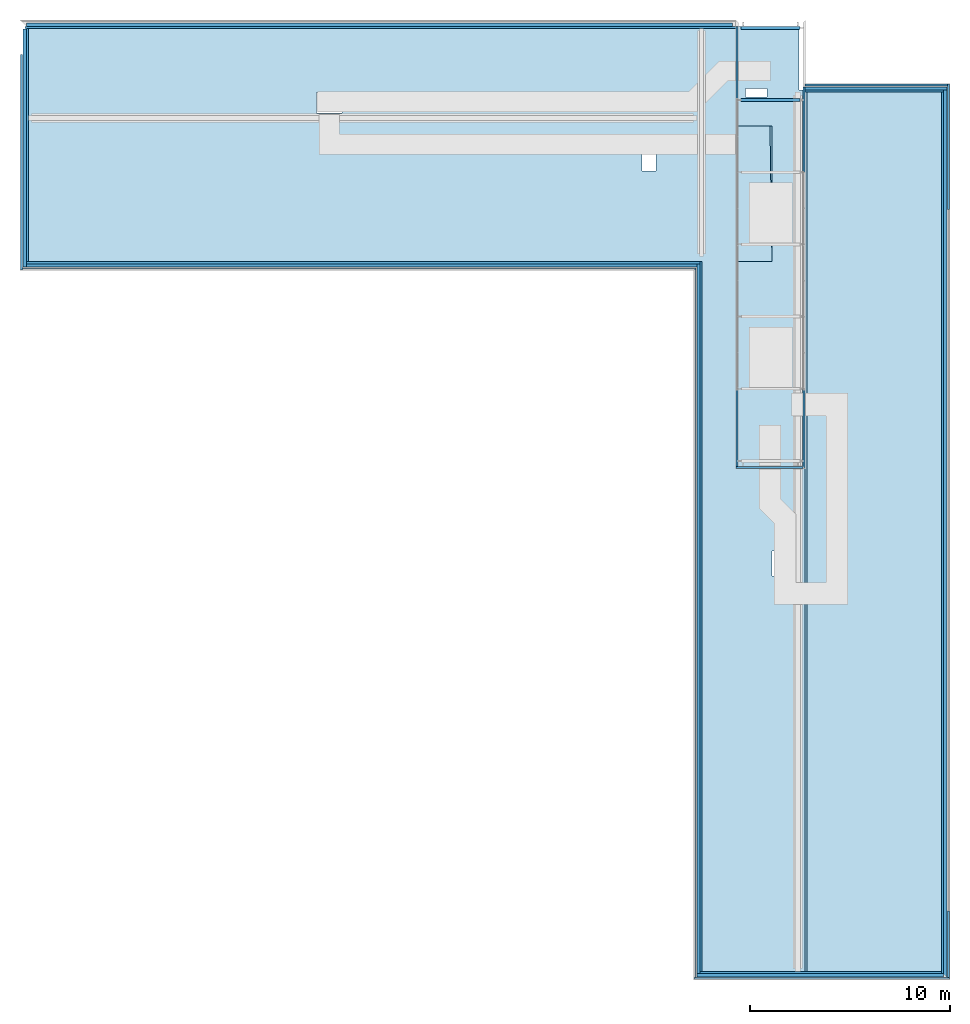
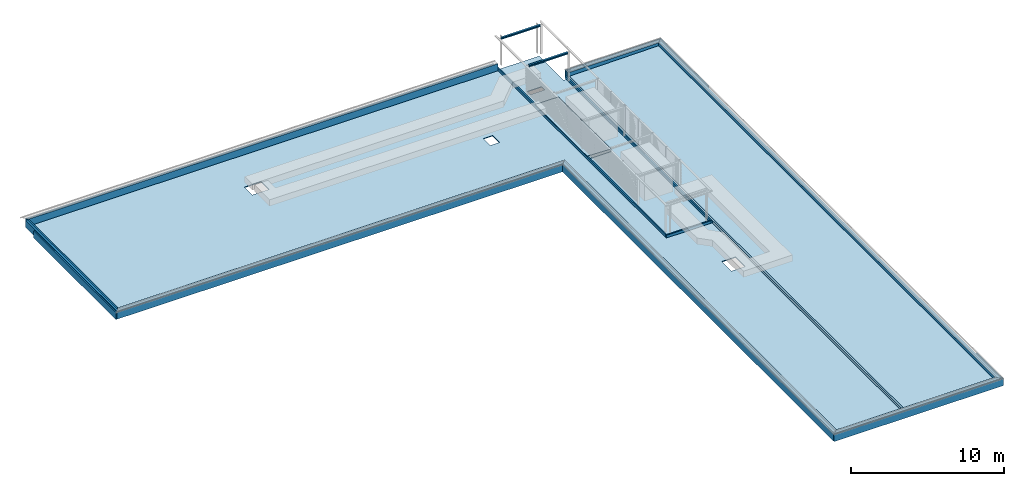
# One storey, part 19 of 32: 24 walls, 2 beams, 2 roofs, 1 slab, 4 openings.
"""IFC2X3 building model written with IfcOpenShell, lengths in millimetres."""

import ifcopenshell
import ifcopenshell.guid

model = None  # the IFC model being written
_history = None  # IfcOwnerHistory: only IFC2X3 demands one
_inside = {}  # id of a spatial element -> (the spatial element, [elements in it])
_under = {}  # id of a project, library or spatial element -> (it, [spatial elements below it])
_declared = {}  # id of a project -> (the project, [libraries it declares])
_typed = {}  # id of a type object -> (the type object, [elements of that type])
_made_of = {}  # id of a material, layer set ... -> (it, [elements and type objects made of it])


def new_model(schema):
    """Start an empty IFC model of exactly this schema.

    Asked for "IFC4X3", IfcOpenShell would pick the latest addendum, in which some entities
    have other attributes; the version numbers below select the first issue.
    IFC2X3 requires an IfcOwnerHistory on every rooted entity: one is made here for all.
    """
    global model, _history
    if schema == "IFC4X3":
        model = ifcopenshell.file(schema_version=(4, 3, 0, 0))
    else:
        model = ifcopenshell.file(schema=schema)
    _inside.clear()
    _under.clear()
    _declared.clear()
    _typed.clear()
    _made_of.clear()
    _history = None
    if model.schema == "IFC2X3":
        org = make("IfcOrganization", Name="unknown")
        user = make(
            "IfcPersonAndOrganization",
            ThePerson=make("IfcPerson", FamilyName="unknown"),
            TheOrganization=org,
        )
        app = make(
            "IfcApplication",
            ApplicationDeveloper=org,
            Version="unknown",
            ApplicationFullName="unknown",
            ApplicationIdentifier="unknown",
        )
        _history = make(
            "IfcOwnerHistory",
            OwningUser=user,
            OwningApplication=app,
            ChangeAction="ADDED",
            CreationDate=0,
        )
    return model


def make(cls, **values):
    """One entity of the class cls with the attributes given. An attribute that is None is left unset."""
    return model.create_entity(
        cls, **{name: value for name, value in values.items() if value is not None}
    )


def entity(cls, *values):
    """Any entity or typed value of the class cls, its attributes in the order of the schema. None: left unset."""
    e = model.create_entity(cls)
    for i, value in enumerate(values):
        if value is not None:
            e[i] = value
    return e


def rooted(cls, **values):
    """An entity with a GlobalId (a new one), such as an element, a storey or a relation."""
    return make(cls, GlobalId=ifcopenshell.guid.new(), OwnerHistory=_history, **values)


def si_unit(unit_type, name, prefix=None):
    """IfcSIUnit, for example si_unit("LENGTHUNIT", "METRE", prefix="MILLI")."""
    return make("IfcSIUnit", UnitType=unit_type, Prefix=prefix, Name=name)


def converted_unit(unit_type, name, factor, base, dimensions=None, offset=None):
    """IfcConversionBasedUnit, such as the inch: factor (a typed value) times the base unit."""
    return make(
        "IfcConversionBasedUnit"
        if offset is None
        else "IfcConversionBasedUnitWithOffset",
        ConversionOffset=offset,
        Dimensions=None
        if dimensions is None
        else entity("IfcDimensionalExponents", *dimensions),
        UnitType=unit_type,
        Name=name,
        ConversionFactor=make(
            "IfcMeasureWithUnit", ValueComponent=factor, UnitComponent=base
        ),
    )


def derived_unit(unit_type, elements):
    """IfcDerivedUnit: a product of units, each with its exponent."""
    return make(
        "IfcDerivedUnit",
        Elements=[
            make("IfcDerivedUnitElement", Unit=unit, Exponent=power)
            for unit, power in elements
        ],
        UnitType=unit_type,
    )


def assignment(units):
    """IfcUnitAssignment: the units of a project."""
    return None if units is None else make("IfcUnitAssignment", Units=units)


def point(xyz):
    """IfcCartesianPoint."""
    return None if xyz is None else make("IfcCartesianPoint", Coordinates=xyz)


def direction(xyz):
    """IfcDirection."""
    return None if xyz is None else make("IfcDirection", DirectionRatios=xyz)


def frame(location, z_axis=None, x_axis=None):
    """IfcAxis2Placement3D, a coordinate frame: its origin and axes. An axis left out is left unset."""
    return make(
        "IfcAxis2Placement3D",
        Location=point(location),
        Axis=direction(z_axis),
        RefDirection=direction(x_axis),
    )


def frame_2d(location, x_axis=None):
    """IfcAxis2Placement2D, a coordinate frame in the plane: its origin and x axis."""
    return make(
        "IfcAxis2Placement2D", Location=point(location), RefDirection=direction(x_axis)
    )


def origin():
    """The frame at (0, 0, 0) with its axes left unset."""
    return frame((0.0, 0.0, 0.0))


def origin_2d_with_axis():
    """The frame at (0, 0) in the plane with the x axis (1, 0) written out."""
    return frame_2d((0.0, 0.0), x_axis=(1.0, 0.0))


def place(relative_to, where):
    """IfcLocalPlacement: puts the frame where relative to a parent placement (None: the world)."""
    return make(
        "IfcLocalPlacement", PlacementRelTo=relative_to, RelativePlacement=where
    )


def context(
    kind, dimensions, precision=None, world=None, true_north=None, identifier=None
):
    """IfcGeometricRepresentationContext, for example the 3D "Model" context."""
    return make(
        "IfcGeometricRepresentationContext",
        ContextIdentifier=identifier,
        ContextType=kind,
        CoordinateSpaceDimension=dimensions,
        Precision=precision,
        WorldCoordinateSystem=world,
        TrueNorth=true_north,
    )


def subcontext(parent, identifier, kind, view, scale=None):
    """IfcGeometricRepresentationSubContext, for example "Body" below "Model"."""
    return make(
        "IfcGeometricRepresentationSubContext",
        ContextIdentifier=identifier,
        ContextType=kind,
        ParentContext=parent,
        TargetScale=scale,
        TargetView=view,
    )


def project(units=None, contexts=None):
    """IfcProject with its units and contexts."""
    return rooted(
        "IfcProject",
        Name="project",
        RepresentationContexts=contexts,
        UnitsInContext=assignment(units),
    )


def spatial(cls, under=None, at=None, **own):
    """A site, building, storey or space (cls), placed at a placement, below another one or the project."""
    s = rooted(cls, ObjectPlacement=at, **own)
    if under is not None:
        _under.setdefault(under.id(), (under, []))[1].append(s)
    return s


def polyline(points):
    """IfcPolyline through the points."""
    return make("IfcPolyline", Points=[point(p) for p in points])


def profile(cls, at=None, kind="AREA", **sizes):
    """A parametric profile (cls). Its sizes go by their IFC names, for example OverallWidth=200.0."""
    return make(cls, ProfileType=kind, Position=at, **sizes)


def rectangle(**sizes):
    """IfcRectangleProfileDef."""
    return profile("IfcRectangleProfileDef", **sizes)


def i_section(**sizes):
    """IfcIShapeProfileDef."""
    return profile("IfcIShapeProfileDef", **sizes)


def outline(outer, holes=None, kind="AREA"):
    """IfcArbitraryClosedProfileDef: a profile drawn as a closed curve; with holes, ...WithVoids."""
    if holes is None:
        return make("IfcArbitraryClosedProfileDef", ProfileType=kind, OuterCurve=outer)
    return make(
        "IfcArbitraryProfileDefWithVoids",
        ProfileType=kind,
        OuterCurve=outer,
        InnerCurves=holes,
    )


def extrude(swept, where, along, depth):
    """IfcExtrudedAreaSolid: the profile swept, set in the frame where, extruded along a direction by depth."""
    return make(
        "IfcExtrudedAreaSolid",
        SweptArea=swept,
        Position=where,
        ExtrudedDirection=direction(along),
        Depth=depth,
    )


def faces_of(points, faces, orient=None, outer=None):
    """IfcFace entities. A face is a list of loops; a loop is a list of indices into points, from 0.

    orient and outer hold one flag for each loop. By default every Orientation is true, the
    first loop of a face is its IfcFaceOuterBound and the others are IfcFaceBound.
    """
    made = []
    for i, loops in enumerate(faces):
        bounds = []
        for j, loop in enumerate(loops):
            is_outer = j == 0 if outer is None else outer[i][j]
            bounds.append(
                make(
                    "IfcFaceOuterBound" if is_outer else "IfcFaceBound",
                    Bound=make("IfcPolyLoop", Polygon=[points[k] for k in loop]),
                    Orientation=True if orient is None else orient[i][j],
                )
            )
        made.append(make("IfcFace", Bounds=bounds))
    return made


def faceted_brep(points, faces, orient=None, outer=None, voids=None):
    """IfcFacetedBrep: a solid bounded by flat faces; with voids (closed shells), ...WithVoids."""
    shared = [point(p) for p in points]
    hull = make("IfcClosedShell", CfsFaces=faces_of(shared, faces, orient, outer))
    if voids is None:
        return make("IfcFacetedBrep", Outer=hull)
    return make(
        "IfcFacetedBrepWithVoids",
        Outer=hull,
        Voids=[
            make(cls, CfsFaces=faces_of(shared, fs, o, b)) for cls, fs, o, b in voids
        ],
    )


def shape(context_of_items, identifier, shape_type, items):
    """IfcShapeRepresentation: the items that make up one representation, for example the "Body"."""
    return make(
        "IfcShapeRepresentation",
        ContextOfItems=context_of_items,
        RepresentationIdentifier=identifier,
        RepresentationType=shape_type,
        Items=items,
    )


def material(Name=None, Category=None):
    """IfcMaterial."""
    return make("IfcMaterial", Name=Name, Category=Category)


def layer(
    of_material, thickness, ventilated=None, Name=None, Category=None, Priority=None
):
    """IfcMaterialLayer: one layer of a wall or slab, of a material (None: an air gap)."""
    return make(
        "IfcMaterialLayer",
        Material=of_material,
        LayerThickness=thickness,
        IsVentilated=ventilated,
        Name=Name,
        Category=Category,
        Priority=Priority,
    )


def layer_set(layers, Name=None):
    """IfcMaterialLayerSet."""
    return make("IfcMaterialLayerSet", MaterialLayers=layers, LayerSetName=Name)


def layer_usage(for_layer_set, set_direction, sense, offset, extent=None):
    """IfcMaterialLayerSetUsage: how a layer set lies in its element."""
    return make(
        "IfcMaterialLayerSetUsage",
        ForLayerSet=for_layer_set,
        LayerSetDirection=set_direction,
        DirectionSense=sense,
        OffsetFromReferenceLine=offset,
        ReferenceExtent=extent,
    )


def made_of(thing, what):
    """Note that an element or type object is made of a material, layer set ...; save() writes the relation."""
    if what is not None:
        _made_of.setdefault(what.id(), (what, []))[1].append(thing)
    return thing


def type_object(cls, material=None, **own):
    """A type object (cls), such as IfcWallType, which elements share."""
    return made_of(rooted(cls, **own), material)


def element(
    cls,
    number,
    at=None,
    inside=None,
    cuts=None,
    type_object=None,
    material=None,
    context=None,
    identifier="Body",
    shape_type=None,
    held_by="IfcProductDefinitionShape",
    body=None,
    shapes=None,
    **own,
):
    """One element of the class cls, such as IfcWall. Its Tag is "e" and its number.

    at: its placement. inside: the storey or other place that contains it. cuts: it is an
    opening in that element (IfcRelVoidsElement). A single representation is given by context,
    identifier, shape_type and body (its items); several are given by shapes. held_by: the class
    of the entity that holds the representations. save() writes the other relations.
    """
    e = rooted(cls, Tag="e%d" % number, ObjectPlacement=at, **own)
    if body is not None:
        shapes = [shape(context, identifier, shape_type, body)]
    if shapes is not None:
        e.Representation = make(held_by, Representations=shapes)
    if inside is not None:
        _inside.setdefault(inside.id(), (inside, []))[1].append(e)
    if cuts is not None:
        rooted(
            "IfcRelVoidsElement", RelatingBuildingElement=cuts, RelatedOpeningElement=e
        )
    if type_object is not None:
        _typed.setdefault(type_object.id(), (type_object, []))[1].append(e)
    return made_of(e, material)


def aggregate(whole, parts):
    """IfcRelAggregates: a whole, such as a stair, and the parts it consists of."""
    return rooted("IfcRelAggregates", RelatingObject=whole, RelatedObjects=parts)


def save(model, path):
    """Write the relations noted so far, then the file.

    IfcRelAggregates (storeys below a building ...), IfcRelContainedInSpatialStructure (elements
    in a storey), IfcRelDefinesByType, IfcRelAssociatesMaterial and IfcRelDeclares: one each for
    every whole, place, type object, material and project.
    """
    for whole, parts in _under.values():
        aggregate(whole, parts)
    for where, things in _inside.values():
        rooted(
            "IfcRelContainedInSpatialStructure",
            RelatedElements=things,
            RelatingStructure=where,
        )
    for kind, things in _typed.values():
        rooted("IfcRelDefinesByType", RelatedObjects=things, RelatingType=kind)
    for what, things in _made_of.values():
        rooted("IfcRelAssociatesMaterial", RelatedObjects=things, RelatingMaterial=what)
    for by, libraries in _declared.values():
        rooted("IfcRelDeclares", RelatingContext=by, RelatedDefinitions=libraries)
    model.write(path)


model = new_model("IFC2X3")

# Units and contexts
model_context = context("Model", 3, precision=0.01, world=origin(), true_north=direction((6.123031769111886e-17, 1.0)))
body_context = subcontext(model_context, "Body", "Model", "MODEL_VIEW")
ifc_project = project(units=[si_unit("LENGTHUNIT", "METRE", prefix="MILLI"), si_unit("AREAUNIT", "SQUARE_METRE"), si_unit("VOLUMEUNIT", "CUBIC_METRE"), converted_unit("PLANEANGLEUNIT", "DEGREE", entity("IfcRatioMeasure", 0.017453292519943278), si_unit("PLANEANGLEUNIT", "RADIAN"), dimensions=[0, 0, 0, 0, 0, 0, 0]), si_unit("MASSUNIT", "GRAM", prefix="KILO"), derived_unit("MASSDENSITYUNIT", [(si_unit("MASSUNIT", "GRAM", prefix="KILO"), 1), (si_unit("LENGTHUNIT", "METRE"), -3)]), derived_unit("IONCONCENTRATIONUNIT", [(si_unit("MASSUNIT", "GRAM", prefix="KILO"), 1), (si_unit("LENGTHUNIT", "METRE"), -3)]), derived_unit("MOMENTOFINERTIAUNIT", [(si_unit("LENGTHUNIT", "METRE"), 4)]), si_unit("TIMEUNIT", "SECOND"), si_unit("FREQUENCYUNIT", "HERTZ"), si_unit("THERMODYNAMICTEMPERATUREUNIT", "DEGREE_CELSIUS"), derived_unit("THERMALTRANSMITTANCEUNIT", [(si_unit("MASSUNIT", "GRAM", prefix="KILO"), 1), (si_unit("THERMODYNAMICTEMPERATUREUNIT", "KELVIN"), -1), (si_unit("TIMEUNIT", "SECOND"), -3)]), derived_unit("THERMALCONDUCTANCEUNIT", [(si_unit("MASSUNIT", "GRAM", prefix="KILO"), 1), (si_unit("THERMODYNAMICTEMPERATUREUNIT", "KELVIN"), -1), (si_unit("TIMEUNIT", "SECOND"), -3), (si_unit("LENGTHUNIT", "METRE"), 1)]), derived_unit("VOLUMETRICFLOWRATEUNIT", [(si_unit("LENGTHUNIT", "METRE"), 3), (si_unit("TIMEUNIT", "SECOND"), -1)]), derived_unit("MASSFLOWRATEUNIT", [(si_unit("MASSUNIT", "GRAM", prefix="KILO"), 1), (si_unit("TIMEUNIT", "SECOND"), -1)]), derived_unit("ROTATIONALFREQUENCYUNIT", [(si_unit("TIMEUNIT", "SECOND"), -1)]), si_unit("ELECTRICCURRENTUNIT", "AMPERE"), si_unit("ELECTRICVOLTAGEUNIT", "VOLT"), si_unit("POWERUNIT", "WATT"), si_unit("FORCEUNIT", "NEWTON", prefix="KILO"), si_unit("ILLUMINANCEUNIT", "LUX"), si_unit("LUMINOUSFLUXUNIT", "LUMEN"), si_unit("LUMINOUSINTENSITYUNIT", "CANDELA"), derived_unit("USERDEFINED", [(si_unit("MASSUNIT", "GRAM", prefix="KILO"), -1), (si_unit("LENGTHUNIT", "METRE"), -2), (si_unit("TIMEUNIT", "SECOND"), 3), (si_unit("LUMINOUSFLUXUNIT", "LUMEN"), 1)]), derived_unit("USERDEFINED", [(si_unit("MASSUNIT", "GRAM", prefix="KILO"), 1), (si_unit("TIMEUNIT", "SECOND"), -3), (si_unit("LENGTHUNIT", "METRE"), 3), (si_unit("ELECTRICCURRENTUNIT", "AMPERE"), -2)]), derived_unit("SOUNDPOWERUNIT", [(si_unit("MASSUNIT", "GRAM", prefix="KILO"), 1), (si_unit("TIMEUNIT", "SECOND"), -3), (si_unit("LENGTHUNIT", "METRE"), 2)]), derived_unit("SOUNDPRESSUREUNIT", [(si_unit("MASSUNIT", "GRAM", prefix="KILO"), 1), (si_unit("LENGTHUNIT", "METRE"), -1), (si_unit("TIMEUNIT", "SECOND"), -2)]), derived_unit("LINEARVELOCITYUNIT", [(si_unit("LENGTHUNIT", "METRE"), 1), (si_unit("TIMEUNIT", "SECOND"), -1)]), si_unit("PRESSUREUNIT", "PASCAL"), derived_unit("USERDEFINED", [(si_unit("MASSUNIT", "GRAM", prefix="KILO"), 1), (si_unit("LENGTHUNIT", "METRE"), -2), (si_unit("TIMEUNIT", "SECOND"), -2)]), derived_unit("LINEARFORCEUNIT", [(si_unit("MASSUNIT", "GRAM", prefix="KILO"), 1), (si_unit("TIMEUNIT", "SECOND"), -2)]), derived_unit("PLANARFORCEUNIT", [(si_unit("MASSUNIT", "GRAM", prefix="KILO"), 1), (si_unit("LENGTHUNIT", "METRE"), -1), (si_unit("TIMEUNIT", "SECOND"), -2)]), derived_unit("SPECIFICHEATCAPACITYUNIT", [(si_unit("THERMODYNAMICTEMPERATUREUNIT", "KELVIN"), -1), (si_unit("LENGTHUNIT", "METRE"), 2), (si_unit("TIMEUNIT", "SECOND"), -2)]), derived_unit("HEATINGVALUEUNIT", [(si_unit("LENGTHUNIT", "METRE"), 2), (si_unit("TIMEUNIT", "SECOND"), -2)]), derived_unit("VAPORPERMEABILITYUNIT", [(si_unit("LENGTHUNIT", "METRE"), -1), (si_unit("TIMEUNIT", "SECOND"), 1)]), derived_unit("DYNAMICVISCOSITYUNIT", [(si_unit("MASSUNIT", "GRAM", prefix="KILO"), 1), (si_unit("TIMEUNIT", "SECOND"), -1), (si_unit("LENGTHUNIT", "METRE"), -1)]), derived_unit("THERMALEXPANSIONCOEFFICIENTUNIT", [(si_unit("THERMODYNAMICTEMPERATUREUNIT", "KELVIN"), -1)]), derived_unit("MODULUSOFELASTICITYUNIT", [(si_unit("MASSUNIT", "GRAM", prefix="KILO"), 1), (si_unit("LENGTHUNIT", "METRE"), -1), (si_unit("TIMEUNIT", "SECOND"), -2)]), derived_unit("ISOTHERMALMOISTURECAPACITYUNIT", [(si_unit("LENGTHUNIT", "METRE"), 3), (si_unit("MASSUNIT", "GRAM", prefix="KILO"), -1)]), derived_unit("MOISTUREDIFFUSIVITYUNIT", [(si_unit("TIMEUNIT", "SECOND"), -1), (si_unit("LENGTHUNIT", "METRE"), 2)])], contexts=[model_context])

# Site, building, storey
site_placement = place(None, frame((0.0, 300.0, 0.0)))
site = spatial("IfcSite", under=ifc_project, at=site_placement, Name="<Kadastrale nummers>", CompositionType="ELEMENT")
building_placement = place(site_placement, origin())
building = spatial("IfcBuilding", under=site, at=building_placement, CompositionType="ELEMENT")
storey_placement = place(building_placement, frame((0.0, 0.0, 7150.000035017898)))
storey = spatial("IfcBuildingStorey", under=building, at=storey_placement, Name="02 tweede verdieping", CompositionType="ELEMENT", Elevation=7150.000035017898)

# Beams
ifc_material_1 = material(Name="h2_staal S235")
beam_type = type_object("IfcBeamType", Name="NLRS_28_SF_LIB_balk hea -SH_gen_ISR:balk gen hea140", PredefinedType="BEAM")
beam_1_placement = place(storey_placement, frame((41400.0, 46200.0, 2409.9999649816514), z_axis=(0.0, 0.0, 1.0), x_axis=(-1.0, 0.0, 0.0)))
element("IfcBeam", 1, at=beam_1_placement, inside=storey, type_object=beam_type, material=ifc_material_1, Name="NLRS_28_SF_LIB_balk hea -SH_gen_ISR:balk gen hea140", ObjectType="NLRS_28_SF_LIB_balk hea -SH_gen_ISR:balk gen hea140", context=body_context, shape_type="SweptSolid", body=[
    extrude(i_section(OverallWidth=140.0000000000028, OverallDepth=133.00000000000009, WebThickness=5.4999999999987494, FlangeThickness=8.500000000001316, FilletRadius=11.999999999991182, at=frame_2d((-1.0800249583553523e-12, 0.0), x_axis=(0.0, 1.0))), frame((-115.0, 0.0, 66.49999999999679), z_axis=(1.0, 0.0, 0.0), x_axis=(0.0, 0.0, -1.0)), (0.0, 0.0, 1.0), 2939.9999999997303),
])
beam_2_placement = place(storey_placement, frame((41400.0, 49800.0, 2409.9999649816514), z_axis=(0.0, 0.0, 1.0), x_axis=(-1.0, 0.0, 0.0)))
element("IfcBeam", 2, at=beam_2_placement, inside=storey, type_object=beam_type, material=ifc_material_1, Name="NLRS_28_SF_LIB_balk hea -SH_gen_ISR:balk gen hea140", ObjectType="NLRS_28_SF_LIB_balk hea -SH_gen_ISR:balk gen hea140", context=body_context, shape_type="SweptSolid", body=[
    extrude(i_section(OverallWidth=140.0000000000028, OverallDepth=133.00000000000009, WebThickness=5.4999999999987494, FlangeThickness=8.500000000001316, FilletRadius=11.999999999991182, at=frame_2d((-1.0800249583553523e-12, -1.7330137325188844e-11), x_axis=(0.0, 1.0))), frame((-115.0, 0.0, 66.49999999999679), z_axis=(1.0, 0.0, 0.0), x_axis=(0.0, 0.0, -1.0)), (0.0, 0.0, 1.0), 2939.9999999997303),
])

# Slab, openings
ifc_material_2 = material(Name="ISR_Beton ihwg")
ifc_layer_1 = layer(ifc_material_2, 60.0)
ifc_layer_set_1 = layer_set([ifc_layer_1], Name="Floor:23_Gewapende Druklaag")
ifc_layer_usage_1 = layer_usage(ifc_layer_set_1, "AXIS3", "POSITIVE", 0.0)
slab_type = type_object("IfcSlabType", Name="Floor:23_Gewapende Druklaag", PredefinedType="FLOOR", material=ifc_layer_set_1)
slab_placement = place(storey_placement, frame((2925.0, 2625.0, -60.0)))
slab = element("IfcSlab", 3, at=slab_placement, inside=storey, type_object=slab_type, material=ifc_layer_usage_1, Name="Floor:23_Gewapende Druklaag", ObjectType="Floor:23_Gewapende Druklaag", PredefinedType="FLOOR", context=body_context, shape_type="SweptSolid", body=[
    extrude(outline(polyline([(22875.0, 11775.0), (22875.0, 23625.0), (-15675.0, 23625.0), (-15675.0, 20450.0), (-22875.0, 20450.0), (-22875.0, -23625.0), (-10725.0, -23625.0), (-10725.0, 11775.0), (22875.0, 11775.0)])), frame((22875.0, 23625.0, 60.0), z_axis=(0.0, 0.0, -1.0), x_axis=(-1.0, 0.0, 0.0)), (0.0, 0.0, 1.0), 60.00000000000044),
])
opening_1_placement = place(slab_placement, origin())
element("IfcOpeningElement", 4, at=opening_1_placement, cuts=slab, Name="Floor:23_Gewapende Druklaag", ObjectType="Opening", context=body_context, shape_type="SweptSolid", body=[
    extrude(rectangle(XDim=1025.0000000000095, YDim=1260.0000000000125, at=frame_2d((0.0, 2.1600499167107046e-12), x_axis=(1.0, 0.0))), frame((15110.0, 43437.5000000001, 0.0), z_axis=(0.0, 0.0, 1.0), x_axis=(0.0, 1.0, 0.0)), (0.0, 0.0, 1.0), 60.00000000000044),
])
opening_2_placement = place(slab_placement, origin())
element("IfcOpeningElement", 5, at=opening_2_placement, cuts=slab, Name="Floor:23_Gewapende Druklaag", ObjectType="Opening", context=body_context, shape_type="SweptSolid", body=[
    extrude(rectangle(XDim=1260.001376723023, YDim=1035.0066017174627, at=origin_2d_with_axis()), frame((37707.49669914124, 20454.9979349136, 0.0), z_axis=(0.0, 0.0, 1.0), x_axis=(0.0, 1.0, 0.0)), (0.0, 0.0, 1.0), 60.00000000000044),
])
opening_3_placement = place(slab_placement, origin())
element("IfcOpeningElement", 6, at=opening_3_placement, cuts=slab, Name="Floor:23_Gewapende Druklaag", ObjectType="Opening", context=body_context, shape_type="SweptSolid", body=[
    extrude(rectangle(XDim=415.00000000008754, YDim=1075.0000000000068, at=frame_2d((-4.334310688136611e-12, 4.320099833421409e-12), x_axis=(1.0, 0.0))), frame((36412.500000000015, 43942.500000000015, 0.0), z_axis=(0.0, 0.0, 1.0), x_axis=(0.0, 1.0, 0.0)), (0.0, 0.0, 1.0), 60.00000000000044),
])
opening_4_placement = place(slab_placement, origin())
element("IfcOpeningElement", 7, at=opening_4_placement, cuts=slab, Name="Floor:23_Gewapende Druklaag", ObjectType="Opening", context=body_context, shape_type="SweptSolid", body=[
    extrude(rectangle(XDim=900.0000000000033, YDim=699.9999999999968, at=origin_2d_with_axis()), frame((31065.0, 40494.9994747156, 60.0), z_axis=(0.0, 0.0, -1.0), x_axis=(0.0, -1.0, 0.0)), (0.0, 0.0, 1.0), 60.0),
])

# Walls
ifc_material_3 = material(Name="ISR_Metselwerk")
ifc_layer_2 = layer(ifc_material_3, 100.0)
ifc_layer_set_2 = layer_set([ifc_layer_2], Name="Basic Wall:21_DAT_metselwerk_100")
ifc_layer_usage_2 = layer_usage(ifc_layer_set_2, "AXIS2", "POSITIVE", -50.0)
wall_type_1 = type_object("IfcWallType", Name="Basic Wall:21_DAT_metselwerk_100", PredefinedType="STANDARD", material=ifc_layer_set_2)
wall_1_placement = place(storey_placement, frame((2675.0, 48465.0, 0.0), z_axis=(0.0, 0.0, 1.0), x_axis=(0.0, -1.0, 0.0)))
element("IfcWallStandardCase", 8, at=wall_1_placement, inside=storey, type_object=wall_type_1, material=ifc_layer_usage_2, Name="Basic Wall:21_DAT_metselwerk_100", ObjectType="Basic Wall:21_DAT_metselwerk_100", context=body_context, shape_type="SweptSolid", body=[
    extrude(rectangle(XDim=10740.0000000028, YDim=100.0, at=frame_2d((5370.0000000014, 2.3803181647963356e-13), x_axis=(-1.0, 0.0))), origin(), (0.0, 0.0, 1.0), 549.999964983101),
])
wall_2_placement = place(storey_placement, frame((2725.0, 37775.0, 0.0)))
element("IfcWallStandardCase", 9, at=wall_2_placement, inside=storey, type_object=wall_type_1, material=ifc_layer_usage_2, Name="Basic Wall:21_DAT_metselwerk_100", ObjectType="Basic Wall:21_DAT_metselwerk_100", context=body_context, shape_type="SweptSolid", body=[
    extrude(rectangle(XDim=33600.0, YDim=100.00000000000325, at=frame_2d((16800.0, 0.0), x_axis=(-1.0, 0.0))), origin(), (0.0, 0.0, 1.0), 549.999964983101),
])
ifc_layer_usage_3 = layer_usage(ifc_layer_set_2, "AXIS2", "NEGATIVE", 50.0)
wall_3_placement = place(storey_placement, frame((48975.0, 2374.9986232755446, 0.0), z_axis=(0.0, 0.0, 1.0), x_axis=(-1.0, 0.0, 0.0)))
element("IfcWallStandardCase", 10, at=wall_3_placement, inside=storey, type_object=wall_type_1, material=ifc_layer_usage_3, Name="Basic Wall:21_DAT_metselwerk_100", ObjectType="Basic Wall:21_DAT_metselwerk_100", context=body_context, shape_type="SweptSolid", body=[
    extrude(rectangle(XDim=12750.0, YDim=100.0, at=frame_2d((6375.0, -7.105427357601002e-15), x_axis=(-1.0, 0.0))), origin(), (0.0, 0.0, 1.0), 549.9999649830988),
])
wall_4_placement = place(storey_placement, frame((36275.0, 2424.9986232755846, 0.0), z_axis=(0.0, 0.0, 1.0), x_axis=(0.0, 1.0, 0.0)))
element("IfcWallStandardCase", 11, at=wall_4_placement, inside=storey, type_object=wall_type_1, material=ifc_layer_usage_3, Name="Basic Wall:21_DAT_metselwerk_100", ObjectType="Basic Wall:21_DAT_metselwerk_100", context=body_context, shape_type="SweptSolid", body=[
    extrude(rectangle(XDim=35300.0013767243, YDim=100.00000000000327, at=frame_2d((17650.00068836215, 3.552713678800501e-14), x_axis=(-1.0, 0.0))), origin(), (0.0, 0.0, 1.0), 549.999964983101),
])
wall_5_placement = place(storey_placement, frame((48875.0, 46950.0, 0.0), z_axis=(0.0, 0.0, 1.0), x_axis=(-1.0, 0.0, 0.0)))
element("IfcWallStandardCase", 12, at=wall_5_placement, inside=storey, type_object=wall_type_1, material=ifc_layer_usage_2, Name="Basic Wall:21_DAT_metselwerk_100", ObjectType="Basic Wall:21_DAT_metselwerk_100", context=body_context, shape_type="SweptSolid", body=[
    extrude(rectangle(XDim=7099.999999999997, YDim=99.9999999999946, at=frame_2d((3549.9999999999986, -1.63069557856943e-12), x_axis=(-1.0, 0.0))), origin(), (0.0, 0.0, 1.0), 549.999964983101),
])
wall_6_placement = place(storey_placement, frame((48925.0, 40740.0, 0.0), z_axis=(0.0, 0.0, 1.0), x_axis=(0.0, 1.0, 0.0)))
element("IfcWallStandardCase", 13, at=wall_6_placement, inside=storey, type_object=wall_type_1, material=ifc_layer_usage_2, Name="Basic Wall:21_DAT_metselwerk_100", ObjectType="Basic Wall:21_DAT_metselwerk_100", context=body_context, shape_type="SweptSolid", body=[
    extrude(rectangle(XDim=6259.999999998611, YDim=99.9999999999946, at=frame_2d((3129.9999999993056, -5.577760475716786e-13), x_axis=(-1.0, 0.0))), origin(), (0.0, 0.0, 1.0), 549.999964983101),
])
wall_7_placement = place(storey_placement, frame((48925.0, 5760.0, 0.0), z_axis=(0.0, 0.0, 1.0), x_axis=(0.0, -1.0, 0.0)))
element("IfcWallStandardCase", 14, at=wall_7_placement, inside=storey, type_object=wall_type_1, material=ifc_layer_usage_3, Name="Basic Wall:21_DAT_metselwerk_100", ObjectType="Basic Wall:21_DAT_metselwerk_100", context=body_context, shape_type="SweptSolid", body=[
    extrude(rectangle(XDim=3335.0013767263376, YDim=99.99999999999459, at=frame_2d((1667.5006883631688, 0.0), x_axis=(-1.0, 0.0))), origin(), (0.0, 0.0, 1.0), 549.999964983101),
])
ifc_material_4 = material(Name="ISR_Gasbeton")
ifc_layer_3 = layer(ifc_material_4, 100.0)
ifc_layer_set_3 = layer_set([ifc_layer_3], Name="Basic Wall:21_DAT_Gasbeton")
ifc_layer_usage_4 = layer_usage(ifc_layer_set_3, "AXIS2", "POSITIVE", -50.0)
wall_type_2 = type_object("IfcWallType", Name="Basic Wall:21_DAT_Gasbeton", PredefinedType="STANDARD", material=ifc_layer_set_3)
wall_8_placement = place(storey_placement, frame((41725.0, 27825.0, 0.0), z_axis=(0.0, 0.0, 1.0), x_axis=(0.0, 1.0, 0.0)))
element("IfcWallStandardCase", 15, at=wall_8_placement, inside=storey, type_object=wall_type_2, material=ifc_layer_usage_4, Name="Basic Wall:21_DAT_Gasbeton", ObjectType="Basic Wall:21_DAT_Gasbeton", context=body_context, shape_type="SweptSolid", body=[
    extrude(rectangle(XDim=19035.000000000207, YDim=99.9999999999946, at=frame_2d((9517.500000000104, -2.611244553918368e-12), x_axis=(-1.0, 0.0))), origin(), (0.0, 0.0, 1.0), 200.0),
])
ifc_layer_usage_5 = layer_usage(ifc_layer_set_3, "AXIS2", "NEGATIVE", 50.0)
wall_9_placement = place(storey_placement, frame((41675.0, 27875.0, 0.0), z_axis=(0.0, 0.0, 1.0), x_axis=(-1.0, 0.0, 0.0)))
element("IfcWallStandardCase", 16, at=wall_9_placement, inside=storey, type_object=wall_type_2, material=ifc_layer_usage_5, Name="Basic Wall:21_DAT_Gasbeton", ObjectType="Basic Wall:21_DAT_Gasbeton", context=body_context, shape_type="SweptSolid", body=[
    extrude(rectangle(XDim=3360.0000000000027, YDim=100.00000000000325, at=frame_2d((1680.0000000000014, 8.171241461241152e-14), x_axis=(-1.0, 0.0))), origin(), (0.0, 0.0, 1.0), 200.0),
])
wall_10_placement = place(storey_placement, frame((38365.0, 27925.0, 0.0), z_axis=(0.0, 0.0, 1.0), x_axis=(0.0, 1.0, 0.0)))
element("IfcWallStandardCase", 17, at=wall_10_placement, inside=storey, type_object=wall_type_2, material=ifc_layer_usage_4, Name="Basic Wall:21_DAT_Gasbeton", ObjectType="Basic Wall:21_DAT_Gasbeton", context=body_context, shape_type="SweptSolid", body=[
    extrude(rectangle(XDim=21950.000000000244, YDim=100.00000000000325, at=frame_2d((10975.000000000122, 8.810729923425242e-13), x_axis=(-1.0, 0.0))), origin(), (0.0, 0.0, 1.0), 200.0),
])
ifc_material_5 = material(Name="ISR_Isolatie")
ifc_layer_4 = layer(ifc_material_5, 160.0)
ifc_layer_set_4 = layer_set([ifc_layer_4], Name="Basic Wall:21_DAT_isolatie minerale wol_160")
ifc_layer_usage_6 = layer_usage(ifc_layer_set_4, "AXIS2", "NEGATIVE", 80.0)
wall_type_3 = type_object("IfcWallType", Name="Basic Wall:21_DAT_isolatie minerale wol_160", PredefinedType="STANDARD", material=ifc_layer_set_4)
wall_11_placement = place(storey_placement, frame((2845.0, 37865.0, 0.0), z_axis=(0.0, 0.0, 1.0), x_axis=(0.0, 1.0, 0.0)))
element("IfcWallStandardCase", 18, at=wall_11_placement, inside=storey, type_object=wall_type_3, material=ifc_layer_usage_6, Name="Basic Wall:21_DAT_isolatie minerale wol_160", ObjectType="Basic Wall:21_DAT_isolatie minerale wol_160", context=body_context, shape_type="SweptSolid", body=[
    extrude(rectangle(XDim=11874.999999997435, YDim=160.00000000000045, at=frame_2d((5937.499999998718, 5.684341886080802e-14), x_axis=(-1.0, 0.0))), origin(), (0.0, 0.0, 1.0), 549.9999649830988),
])
wall_12_placement = place(storey_placement, frame((2940.0, 49955.0, 0.0)))
element("IfcWallStandardCase", 19, at=wall_12_placement, inside=storey, type_object=wall_type_3, material=ifc_layer_usage_6, Name="Basic Wall:21_DAT_isolatie minerale wol_160", ObjectType="Basic Wall:21_DAT_isolatie minerale wol_160", context=body_context, shape_type="SweptSolid", body=[
    extrude(rectangle(XDim=35199.99999999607, YDim=159.9999999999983, at=frame_2d((17599.999999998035, -4.263256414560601e-13), x_axis=(-1.0, 0.0))), origin(), (0.0, 0.0, 1.0), 502.8708212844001),
])
wall_13_placement = place(storey_placement, frame((48755.0, 46700.0, 0.0), z_axis=(0.0, 0.0, 1.0), x_axis=(0.0, -1.0, 0.0)))
element("IfcWallStandardCase", 20, at=wall_13_placement, inside=storey, type_object=wall_type_3, material=ifc_layer_usage_6, Name="Basic Wall:21_DAT_isolatie minerale wol_160", ObjectType="Basic Wall:21_DAT_isolatie minerale wol_160", context=body_context, shape_type="SweptSolid", body=[
    extrude(rectangle(XDim=44234.99999999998, YDim=159.9999999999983, at=frame_2d((22117.49999999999, 8.597567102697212e-13), x_axis=(-1.0, 0.0))), origin(), (0.0, 0.0, 1.0), 549.9999649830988),
])
wall_14_placement = place(storey_placement, frame((48675.0, 2545.0, 0.0), z_axis=(0.0, 0.0, 1.0), x_axis=(-1.0, 0.0, 0.0)))
element("IfcWallStandardCase", 21, at=wall_14_placement, inside=storey, type_object=wall_type_3, material=ifc_layer_usage_6, Name="Basic Wall:21_DAT_isolatie minerale wol_160", ObjectType="Basic Wall:21_DAT_isolatie minerale wol_160", context=body_context, shape_type="SweptSolid", body=[
    extrude(rectangle(XDim=12310.0, YDim=160.00000000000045, at=frame_2d((6155.0, -1.4210854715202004e-14), x_axis=(-1.0, 0.0))), origin(), (0.0, 0.0, 1.0), 549.9999649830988),
])
wall_15_placement = place(storey_placement, frame((36445.0, 2625.0, 0.0), z_axis=(0.0, 0.0, 1.0), x_axis=(0.0, 1.0, 0.0)))
element("IfcWallStandardCase", 22, at=wall_15_placement, inside=storey, type_object=wall_type_3, material=ifc_layer_usage_6, Name="Basic Wall:21_DAT_isolatie minerale wol_160", ObjectType="Basic Wall:21_DAT_isolatie minerale wol_160", context=body_context, shape_type="SweptSolid", body=[
    extrude(rectangle(XDim=35399.99999999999, YDim=159.99999999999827, at=frame_2d((17699.999999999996, 0.0), x_axis=(-1.0, 0.0))), origin(), (0.0, 0.0, 1.0), 520.0000000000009),
])
wall_16_placement = place(storey_placement, frame((36365.0, 37945.0, 0.0), z_axis=(0.0, 0.0, 1.0), x_axis=(-1.0, 0.0, 0.0)))
element("IfcWallStandardCase", 23, at=wall_16_placement, inside=storey, type_object=wall_type_3, material=ifc_layer_usage_6, Name="Basic Wall:21_DAT_isolatie minerale wol_160", ObjectType="Basic Wall:21_DAT_isolatie minerale wol_160", context=body_context, shape_type="SweptSolid", body=[
    extrude(rectangle(XDim=33440.0, YDim=159.9999999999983, at=frame_2d((16720.0, -5.115907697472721e-13), x_axis=(-1.0, 0.0))), origin(), (0.0, 0.0, 1.0), 549.9999649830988),
])
wall_17_placement = place(storey_placement, frame((41775.0, 46780.0, 0.0)))
element("IfcWallStandardCase", 24, at=wall_17_placement, inside=storey, type_object=wall_type_3, material=ifc_layer_usage_6, Name="Basic Wall:21_DAT_isolatie minerale wol_160", ObjectType="Basic Wall:21_DAT_isolatie minerale wol_160", context=body_context, shape_type="SweptSolid", body=[
    extrude(rectangle(XDim=7059.999999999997, YDim=159.9999999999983, at=frame_2d((3529.9999999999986, 1.5631940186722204e-13), x_axis=(-1.0, 0.0))), origin(), (0.0, 0.0, 1.0), 549.9999649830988),
])
ifc_material_6 = material(Name="ISR_Multiplex")
ifc_layer_5 = layer(ifc_material_6, 9.0)
ifc_material_7 = material(Name="ISR_IsolatieHekwerk")
ifc_layer_6 = layer(ifc_material_7, 100.0)
ifc_layer_set_5 = layer_set([ifc_layer_5, ifc_layer_6], Name="Basic Wall:21_DAT_Hekwerk 100")
ifc_layer_usage_7 = layer_usage(ifc_layer_set_5, "AXIS2", "POSITIVE", -54.50000000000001)
wall_type_4 = type_object("IfcWallType", Name="Basic Wall:21_DAT_Hekwerk 100", PredefinedType="STANDARD", material=ifc_layer_set_5)
wall_18_placement = place(storey_placement, frame((2845.0, 49820.5, 0.0)))
element("IfcWallStandardCase", 25, at=wall_18_placement, inside=storey, type_object=wall_type_4, material=ifc_layer_usage_7, Name="Basic Wall:21_DAT_Hekwerk 100", ObjectType="Basic Wall:21_DAT_Hekwerk 100", context=body_context, shape_type="SweptSolid", body=[
    extrude(rectangle(XDim=35469.99999999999, YDim=108.99999999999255, at=frame_2d((17734.999999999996, 1.2789769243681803e-13), x_axis=(-1.0, 0.0))), origin(), (0.0, 0.0, 1.0), 549.9999649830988),
])
wall_19_placement = place(storey_placement, frame((41775.0, 46645.499999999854, 0.0)))
element("IfcWallStandardCase", 26, at=wall_19_placement, inside=storey, type_object=wall_type_4, material=ifc_layer_usage_7, Name="Basic Wall:21_DAT_Hekwerk 100", ObjectType="Basic Wall:21_DAT_Hekwerk 100", context=body_context, shape_type="SweptSolid", body=[
    extrude(rectangle(XDim=6899.999999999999, YDim=108.99999999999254, at=frame_2d((3449.9999999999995, 0.0), x_axis=(-1.0, 0.0))), origin(), (0.0, 0.0, 1.0), 549.9999649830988),
])
wall_20_placement = place(storey_placement, frame((48620.50000000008, 46591.0, 0.0), z_axis=(0.0, 0.0, 1.0), x_axis=(0.0, -1.0, 0.0)))
element("IfcWallStandardCase", 27, at=wall_20_placement, inside=storey, type_object=wall_type_4, material=ifc_layer_usage_7, Name="Basic Wall:21_DAT_Hekwerk 100", ObjectType="Basic Wall:21_DAT_Hekwerk 100", context=body_context, shape_type="SweptSolid", body=[
    extrude(rectangle(XDim=43965.99999999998, YDim=108.99999999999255, at=frame_2d((21982.99999999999, 7.247535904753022e-13), x_axis=(-1.0, 0.0))), origin(), (0.0, 0.0, 1.0), 549.9999649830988),
])
wall_21_placement = place(storey_placement, frame((48566.0, 2679.499999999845, 0.0), z_axis=(0.0, 0.0, 1.0), x_axis=(-1.0, 0.0, 0.0)))
element("IfcWallStandardCase", 28, at=wall_21_placement, inside=storey, type_object=wall_type_4, material=ifc_layer_usage_7, Name="Basic Wall:21_DAT_Hekwerk 100", ObjectType="Basic Wall:21_DAT_Hekwerk 100", context=body_context, shape_type="SweptSolid", body=[
    extrude(rectangle(XDim=12041.0, YDim=109.00000000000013, at=frame_2d((6020.5, 0.0), x_axis=(-1.0, 0.0))), origin(), (0.0, 0.0, 1.0), 549.9999649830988),
])
wall_22_placement = place(storey_placement, frame((36579.50000000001, 2734.0, 0.0), z_axis=(0.0, 0.0, 1.0), x_axis=(0.0, 1.0, 0.0)))
element("IfcWallStandardCase", 29, at=wall_22_placement, inside=storey, type_object=wall_type_4, material=ifc_layer_usage_7, Name="Basic Wall:21_DAT_Hekwerk 100", ObjectType="Basic Wall:21_DAT_Hekwerk 100", context=body_context, shape_type="SweptSolid", body=[
    extrude(rectangle(XDim=35399.99999999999, YDim=109.00000000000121, at=frame_2d((17699.999999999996, 8.881784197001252e-14), x_axis=(-1.0, 0.0))), origin(), (0.0, 0.0, 1.0), 549.9999649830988),
])
wall_23_placement = place(storey_placement, frame((36525.0, 38079.49999999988, 0.0), z_axis=(0.0, 0.0, 1.0), x_axis=(-1.0, 0.0, 0.0)))
element("IfcWallStandardCase", 30, at=wall_23_placement, inside=storey, type_object=wall_type_4, material=ifc_layer_usage_7, Name="Basic Wall:21_DAT_Hekwerk 100", ObjectType="Basic Wall:21_DAT_Hekwerk 100", context=body_context, shape_type="SweptSolid", body=[
    extrude(rectangle(XDim=33600.0, YDim=109.00000000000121, at=frame_2d((16800.0, -1.7408297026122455e-13), x_axis=(-1.0, 0.0))), origin(), (0.0, 0.0, 1.0), 549.9999649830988),
])
wall_24_placement = place(storey_placement, frame((2979.5000000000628, 38134.0, 0.0), z_axis=(0.0, 0.0, 1.0), x_axis=(0.0, 1.0, 0.0)))
element("IfcWallStandardCase", 31, at=wall_24_placement, inside=storey, type_object=wall_type_4, material=ifc_layer_usage_7, Name="Basic Wall:21_DAT_Hekwerk 100", ObjectType="Basic Wall:21_DAT_Hekwerk 100", context=body_context, shape_type="SweptSolid", body=[
    extrude(rectangle(XDim=11632.000000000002, YDim=109.00000000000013, at=frame_2d((5816.000000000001, 0.0), x_axis=(-1.0, 0.0))), origin(), (0.0, 0.0, 1.0), 549.9999649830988),
])

# Roofs
ifc_material_8 = material(Name="ISR_Bitumen")
ifc_layer_7 = layer(ifc_material_8, 2.0)
ifc_layer_8 = layer(ifc_material_8, 2.0)
ifc_material_9 = material(Name="ISR_Dak_isolatie")
ifc_layer_9 = layer(ifc_material_9, 200.0)
ifc_layer_set_6 = layer_set([ifc_layer_7, ifc_layer_8, ifc_layer_9], Name="Basic Roof:300_27_dakisolatie+dakleer")
roof_1_placement = place(storey_placement, frame((41775.0, 2734.0, 0.0)))
element("IfcRoof", 32, at=roof_1_placement, inside=storey, material=ifc_layer_set_6, Name="Basic Roof:300_27_dakisolatie+dakleer", ObjectType="Basic Roof:300_27_dakisolatie+dakleer", ShapeType="NOTDEFINED", context=body_context, shape_type="Brep", body=[
    faceted_brep([(0.0, 0.0, 204.0), (0.0, 0.0, 0.0), (6791.0, 0.0, 0.0), (6791.0, 0.0, 329.99996498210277), (100.0, 0.0, 249.99996498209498), (6791.0, 43857.0, 0.0), (6791.0, 43857.0, 329.99996498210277), (0.0, 43857.0, 0.0), (0.0, 43857.0, 204.0), (100.0, 43857.0, 249.99996498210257)], [[[0, 1, 2, 3, 4]], [[3, 2, 5, 6]], [[6, 5, 7, 8, 9]], [[8, 7, 1, 0]], [[3, 6, 9, 4]], [[2, 1, 7, 5]], [[8, 0, 4, 9]]]),
])
roof_2_placement = place(storey_placement, frame((38315.0, 38134.0, 0.0)))
element("IfcRoof", 33, at=roof_2_placement, inside=storey, material=ifc_layer_set_6, Name="Basic Roof:300_27_dakisolatie+dakleer", ObjectType="Basic Roof:300_27_dakisolatie+dakleer", ShapeType="NOTDEFINED", context=body_context, shape_type="Brep", body=[
    faceted_brep([(1799.9933982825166, 0.0, 0.0), (0.0, 0.0, 0.0), (0.0, 6781.0, 0.0), (1799.9933982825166, 6781.0, 0.0), (0.0, 0.0, 264.9999649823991), (1799.9933982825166, 0.0, 204.0), (1799.9933982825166, 6781.0, 204.0), (0.0, 6781.0, 264.9999649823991), (1699.9933982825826, 6781.0, 249.99996498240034)], [[[0, 1, 2, 3]], [[4, 1, 0, 5]], [[5, 0, 3, 6]], [[7, 2, 1, 4]], [[6, 3, 2, 7, 8]], [[7, 4, 8]], [[6, 8, 5]], [[4, 5, 8]]]),
])

save(model, "model.ifc")
